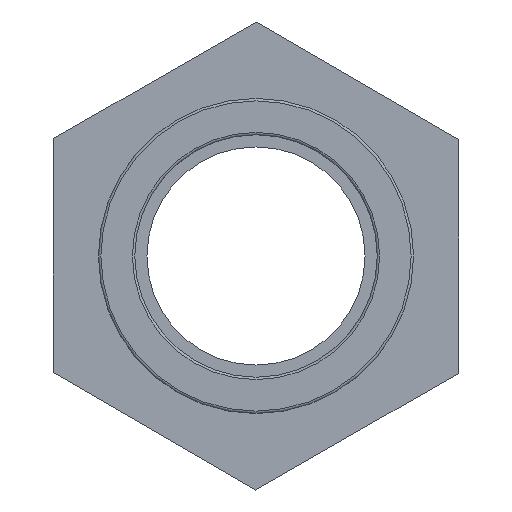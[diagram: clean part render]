
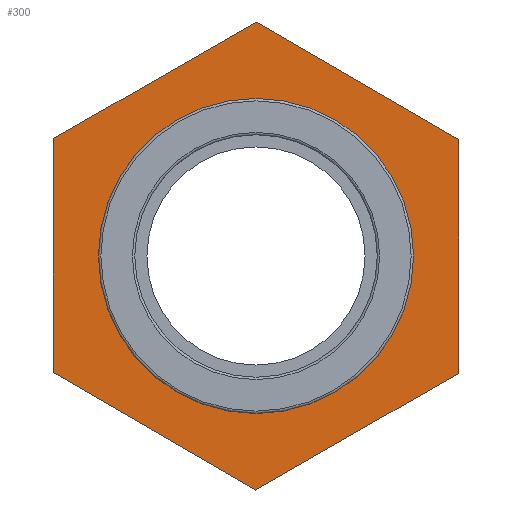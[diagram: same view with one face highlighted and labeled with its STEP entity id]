
A CAD part, left-side view. The second image highlights one B-rep face of the part: STEP entity #300.
In plain terms, the highlighted planar face has unit normal (-1, 0, 0).
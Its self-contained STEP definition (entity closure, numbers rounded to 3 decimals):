
#15=LINE('',#466,#33);
#19=LINE('',#474,#37);
#22=LINE('',#480,#40);
#25=LINE('',#487,#43);
#29=LINE('',#494,#47);
#31=LINE('',#497,#49);
#33=VECTOR('',#386,14.434);
#37=VECTOR('',#392,14.434);
#40=VECTOR('',#397,14.434);
#43=VECTOR('',#402,14.434);
#47=VECTOR('',#408,14.434);
#49=VECTOR('',#412,14.434);
#67=PLANE('',#337);
#82=FACE_BOUND('',#139,.T.);
#103=FACE_OUTER_BOUND('',#138,.T.);
#138=EDGE_LOOP('',(#269,#270,#271,#272,#273,#274));
#139=EDGE_LOOP('',(#275));
#151=CIRCLE('',#324,9.718);
#165=VERTEX_POINT('',#461);
#166=VERTEX_POINT('',#464);
#167=VERTEX_POINT('',#465);
#170=VERTEX_POINT('',#473);
#172=VERTEX_POINT('',#479);
#174=VERTEX_POINT('',#485);
#175=VERTEX_POINT('',#486);
#191=EDGE_CURVE('',#165,#165,#151,.T.);
#192=EDGE_CURVE('',#166,#167,#15,.T.);
#196=EDGE_CURVE('',#167,#170,#19,.T.);
#199=EDGE_CURVE('',#170,#172,#22,.T.);
#202=EDGE_CURVE('',#174,#175,#25,.T.);
#206=EDGE_CURVE('',#175,#166,#29,.T.);
#208=EDGE_CURVE('',#172,#174,#31,.T.);
#269=ORIENTED_EDGE('',*,*,#206,.F.);
#270=ORIENTED_EDGE('',*,*,#202,.F.);
#271=ORIENTED_EDGE('',*,*,#208,.F.);
#272=ORIENTED_EDGE('',*,*,#199,.F.);
#273=ORIENTED_EDGE('',*,*,#196,.F.);
#274=ORIENTED_EDGE('',*,*,#192,.F.);
#275=ORIENTED_EDGE('',*,*,#191,.F.);
#300=ADVANCED_FACE('',(#103,#82),#67,.T.);
#324=AXIS2_PLACEMENT_3D('',#462,#382,#383);
#337=AXIS2_PLACEMENT_3D('',#507,#426,#427);
#382=DIRECTION('center_axis',(-1.,0.,0.));
#383=DIRECTION('ref_axis',(0.,0.,1.));
#386=DIRECTION('',(0.,0.003,-1.));
#392=DIRECTION('',(0.,0.867,-0.498));
#397=DIRECTION('',(0.,0.865,0.502));
#402=DIRECTION('',(0.,-0.867,0.498));
#408=DIRECTION('',(0.,-0.865,-0.502));
#412=DIRECTION('',(0.,-0.003,1.));
#426=DIRECTION('center_axis',(-1.,0.,0.));
#427=DIRECTION('ref_axis',(0.,0.,1.));
#461=CARTESIAN_POINT('',(-6.1,-9.718,0.));
#462=CARTESIAN_POINT('Origin',(-6.1,0.,0.));
#464=CARTESIAN_POINT('',(-6.1,-12.521,7.181));
#465=CARTESIAN_POINT('',(-6.1,-12.479,-7.253));
#466=CARTESIAN_POINT('',(-6.1,-12.49,-3.644));
#473=CARTESIAN_POINT('',(-6.1,0.041,-14.434));
#474=CARTESIAN_POINT('',(-6.1,-3.089,-12.638));
#479=CARTESIAN_POINT('',(-6.1,12.521,-7.181));
#480=CARTESIAN_POINT('',(-6.1,9.401,-8.994));
#485=CARTESIAN_POINT('',(-6.1,12.479,7.253));
#486=CARTESIAN_POINT('',(-6.1,-0.041,14.434));
#487=CARTESIAN_POINT('',(-6.1,3.089,12.638));
#494=CARTESIAN_POINT('',(-6.1,-9.401,8.994));
#497=CARTESIAN_POINT('',(-6.1,12.5,0.036));
#507=CARTESIAN_POINT('Origin',(-6.1,-9.718,0.));
